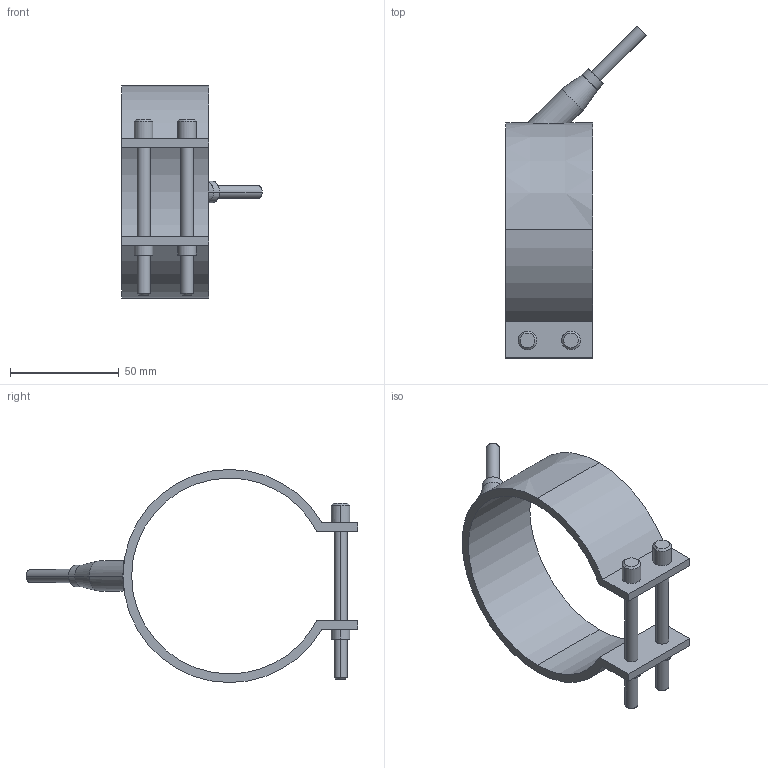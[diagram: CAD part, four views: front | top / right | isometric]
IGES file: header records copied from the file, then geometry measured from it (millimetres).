
Start section: START RECORD GO HERE.
Global section: file name: 29090040.igs; native system: DASSAULT SYSTEMES CATIA V5 R20 - www.3ds.com; preprocessor: CATIA Version 5 Release 20 ; author: Utente; organization: NB04-ASUS; date: 20210329.195916; units: millimetre
Bounding box: 64.55 x 152.55 x 98 mm (x, y, z)
Surface area: 29760.1 mm2 (no closed solid volume)
Topology: 0 solids, 0 shells, 54 faces, 246 edges, 246 vertices
Faces by surface type: revolution 38, plane 16
